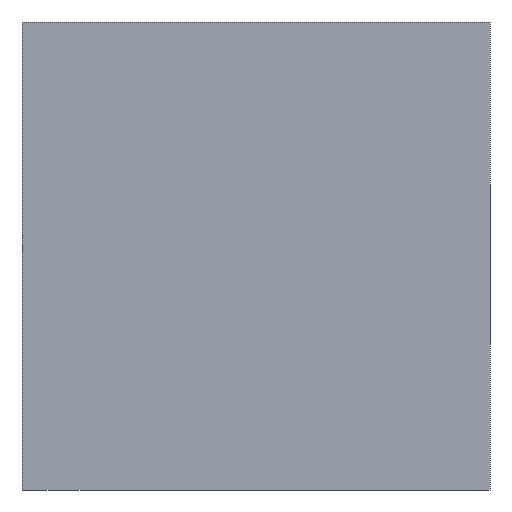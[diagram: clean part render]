
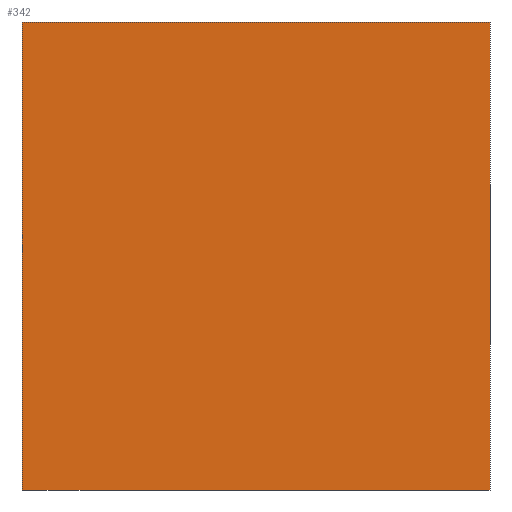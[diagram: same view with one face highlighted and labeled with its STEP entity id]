
A CAD part, left-side view. The second image highlights one B-rep face of the part: STEP entity #342.
In plain terms, the highlighted planar face has unit normal (-1, 0, 0).
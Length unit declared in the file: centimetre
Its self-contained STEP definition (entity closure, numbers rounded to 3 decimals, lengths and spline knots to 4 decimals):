
#8 = ORIENTED_EDGE ( 'NONE', *, *, #335, .F. ) ;
#14 = CARTESIAN_POINT ( 'NONE',  ( 0., 1000., 1000. ) ) ;
#26 = DIRECTION ( 'NONE',  ( 0., -1., 0. ) ) ;
#41 = ORIENTED_EDGE ( 'NONE', *, *, #264, .F. ) ;
#43 = LINE ( 'NONE', #14, #179 ) ;
#78 = DIRECTION ( 'NONE',  ( 0., -1., 0. ) ) ;
#80 = LINE ( 'NONE', #351, #338 ) ;
#83 = VECTOR ( 'NONE', #162, 100. ) ;
#86 = CARTESIAN_POINT ( 'NONE',  ( 0., 0., 1000. ) ) ;
#88 = ORIENTED_EDGE ( 'NONE', *, *, #478, .T. ) ;
#117 = LINE ( 'NONE', #359, #491 ) ;
#162 = DIRECTION ( 'NONE',  ( 0., 0., -1. ) ) ;
#175 = CARTESIAN_POINT ( 'NONE',  ( 0., 1000., 1000. ) ) ;
#179 = VECTOR ( 'NONE', #367, 100. ) ;
#186 = CARTESIAN_POINT ( 'NONE',  ( 0., 1000., 0. ) ) ;
#198 = LINE ( 'NONE', #423, #83 ) ;
#235 = CARTESIAN_POINT ( 'NONE',  ( 0., 1000., 1000. ) ) ;
#264 = EDGE_CURVE ( 'NONE', #498, #477, #117, .T. ) ;
#300 = VERTEX_POINT ( 'NONE', #186 ) ;
#324 = EDGE_CURVE ( 'NONE', #300, #377, #80, .T. ) ;
#335 = EDGE_CURVE ( 'NONE', #477, #377, #198, .T. ) ;
#338 = VECTOR ( 'NONE', #26, 100. ) ;
#342 = ADVANCED_FACE ( 'NONE', ( #430 ), #389, .F. ) ;
#351 = CARTESIAN_POINT ( 'NONE',  ( 0., 1000., 0. ) ) ;
#359 = CARTESIAN_POINT ( 'NONE',  ( 0., 1000., 1000. ) ) ;
#366 = EDGE_LOOP ( 'NONE', ( #496, #8, #41, #88 ) ) ;
#367 = DIRECTION ( 'NONE',  ( 0., 0., -1. ) ) ;
#377 = VERTEX_POINT ( 'NONE', #475 ) ;
#380 = AXIS2_PLACEMENT_3D ( 'NONE', #235, #489, #421 ) ;
#389 = PLANE ( 'NONE',  #380 ) ;
#421 = DIRECTION ( 'NONE',  ( 0., 0., -1. ) ) ;
#423 = CARTESIAN_POINT ( 'NONE',  ( 0., 0., 1000. ) ) ;
#430 = FACE_OUTER_BOUND ( 'NONE', #366, .T. ) ;
#475 = CARTESIAN_POINT ( 'NONE',  ( 0., 0., 0. ) ) ;
#477 = VERTEX_POINT ( 'NONE', #86 ) ;
#478 = EDGE_CURVE ( 'NONE', #498, #300, #43, .T. ) ;
#489 = DIRECTION ( 'NONE',  ( 1., 0., 0. ) ) ;
#491 = VECTOR ( 'NONE', #78, 100. ) ;
#496 = ORIENTED_EDGE ( 'NONE', *, *, #324, .T. ) ;
#498 = VERTEX_POINT ( 'NONE', #175 ) ;
